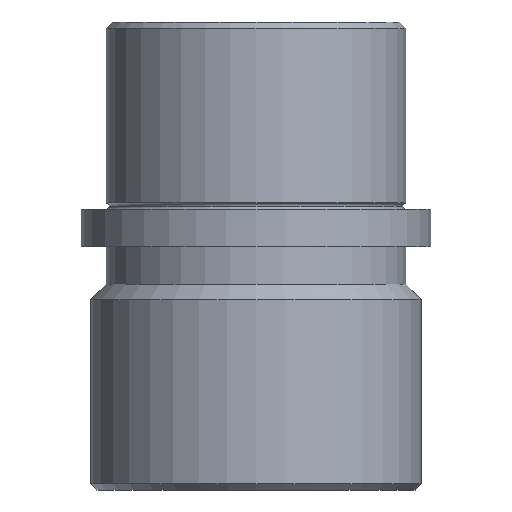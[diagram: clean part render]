
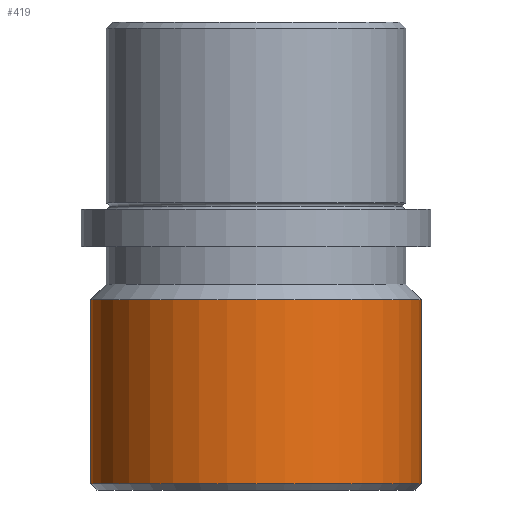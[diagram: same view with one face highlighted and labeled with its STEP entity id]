
A CAD part, front view. The second image highlights one B-rep face of the part: STEP entity #419.
In plain terms, the highlighted cylindrical face has radius 26.5 mm (diameter 53 mm), a partial arc.
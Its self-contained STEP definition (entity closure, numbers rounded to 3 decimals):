
#27 = CARTESIAN_POINT ( 'NONE',  ( 0., 0., 0. ) ) ;
#74 = EDGE_CURVE ( 'NONE', #1049, #161, #597, .T. ) ;
#114 = DIRECTION ( 'NONE',  ( 0., 0., 1. ) ) ;
#115 = EDGE_CURVE ( 'NONE', #1049, #676, #667, .T. ) ;
#161 = VERTEX_POINT ( 'NONE', #172 ) ;
#162 = ORIENTED_EDGE ( 'NONE', *, *, #346, .T. ) ;
#172 = CARTESIAN_POINT ( 'NONE',  ( 26.5, 0., -74. ) ) ;
#214 = FACE_OUTER_BOUND ( 'NONE', #648, .T. ) ;
#330 = CARTESIAN_POINT ( 'NONE',  ( -26.5, 0., 0. ) ) ;
#340 = DIRECTION ( 'NONE',  ( 1., 0., 0. ) ) ;
#346 = EDGE_CURVE ( 'NONE', #161, #1070, #923, .T. ) ;
#407 = DIRECTION ( 'NONE',  ( 0., 0., 1. ) ) ;
#408 = DIRECTION ( 'NONE',  ( 0., 0., 1. ) ) ;
#409 = DIRECTION ( 'NONE',  ( 1., 0., 0. ) ) ;
#419 = ADVANCED_FACE ( 'NONE', ( #214 ), #672, .T. ) ;
#499 = AXIS2_PLACEMENT_3D ( 'NONE', #553, #407, #340 ) ;
#517 = ORIENTED_EDGE ( 'NONE', *, *, #74, .T. ) ;
#553 = CARTESIAN_POINT ( 'NONE',  ( 0., 0., -44.5 ) ) ;
#558 = ORIENTED_EDGE ( 'NONE', *, *, #683, .F. ) ;
#567 = CARTESIAN_POINT ( 'NONE',  ( -26.5, 0., -44.5 ) ) ;
#597 = CIRCLE ( 'NONE', #691, 26.5 ) ;
#637 = CARTESIAN_POINT ( 'NONE',  ( -26.5, 0., -74. ) ) ;
#648 = EDGE_LOOP ( 'NONE', ( #853, #517, #162, #558 ) ) ;
#667 = LINE ( 'NONE', #330, #1085 ) ;
#672 = CYLINDRICAL_SURFACE ( 'NONE', #694, 26.5 ) ;
#676 = VERTEX_POINT ( 'NONE', #567 ) ;
#683 = EDGE_CURVE ( 'NONE', #676, #1070, #740, .T. ) ;
#691 = AXIS2_PLACEMENT_3D ( 'NONE', #907, #408, #994 ) ;
#694 = AXIS2_PLACEMENT_3D ( 'NONE', #27, #114, #409 ) ;
#740 = CIRCLE ( 'NONE', #499, 26.5 ) ;
#853 = ORIENTED_EDGE ( 'NONE', *, *, #115, .F. ) ;
#887 = DIRECTION ( 'NONE',  ( 0., 0., 1. ) ) ;
#890 = VECTOR ( 'NONE', #887, 1000. ) ;
#907 = CARTESIAN_POINT ( 'NONE',  ( 0., 0., -74. ) ) ;
#923 = LINE ( 'NONE', #1074, #890 ) ;
#940 = CARTESIAN_POINT ( 'NONE',  ( 26.5, 0., -44.5 ) ) ;
#994 = DIRECTION ( 'NONE',  ( 1., 0., 0. ) ) ;
#1003 = DIRECTION ( 'NONE',  ( 0., 0., 1. ) ) ;
#1049 = VERTEX_POINT ( 'NONE', #637 ) ;
#1070 = VERTEX_POINT ( 'NONE', #940 ) ;
#1074 = CARTESIAN_POINT ( 'NONE',  ( 26.5, 0., 0. ) ) ;
#1085 = VECTOR ( 'NONE', #1003, 1000. ) ;
